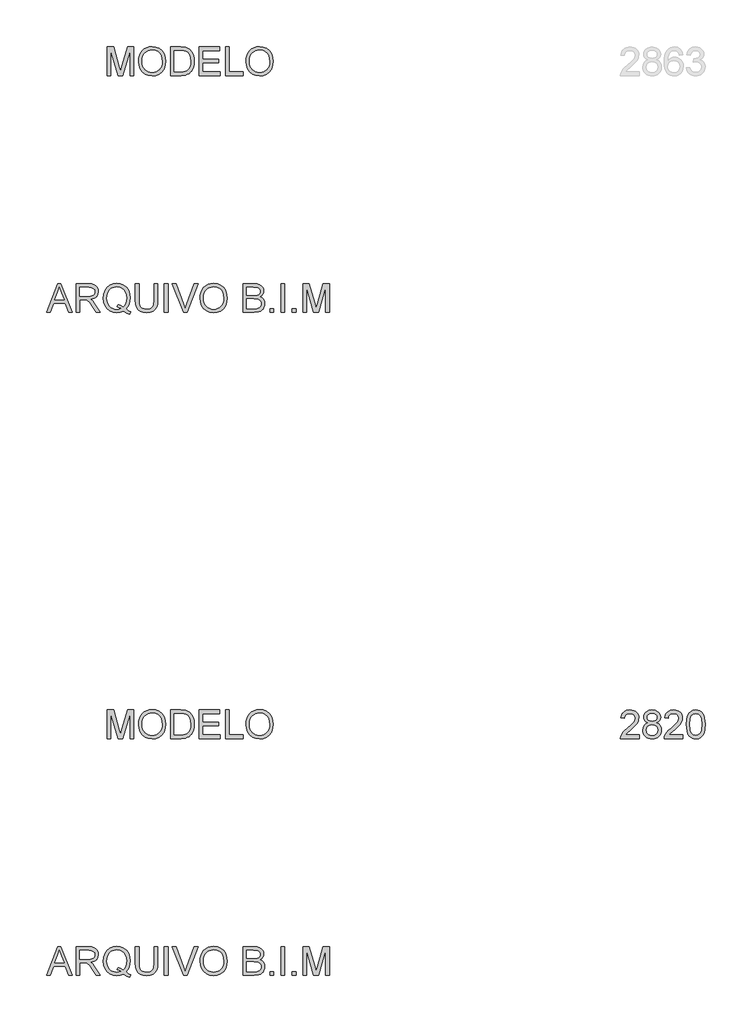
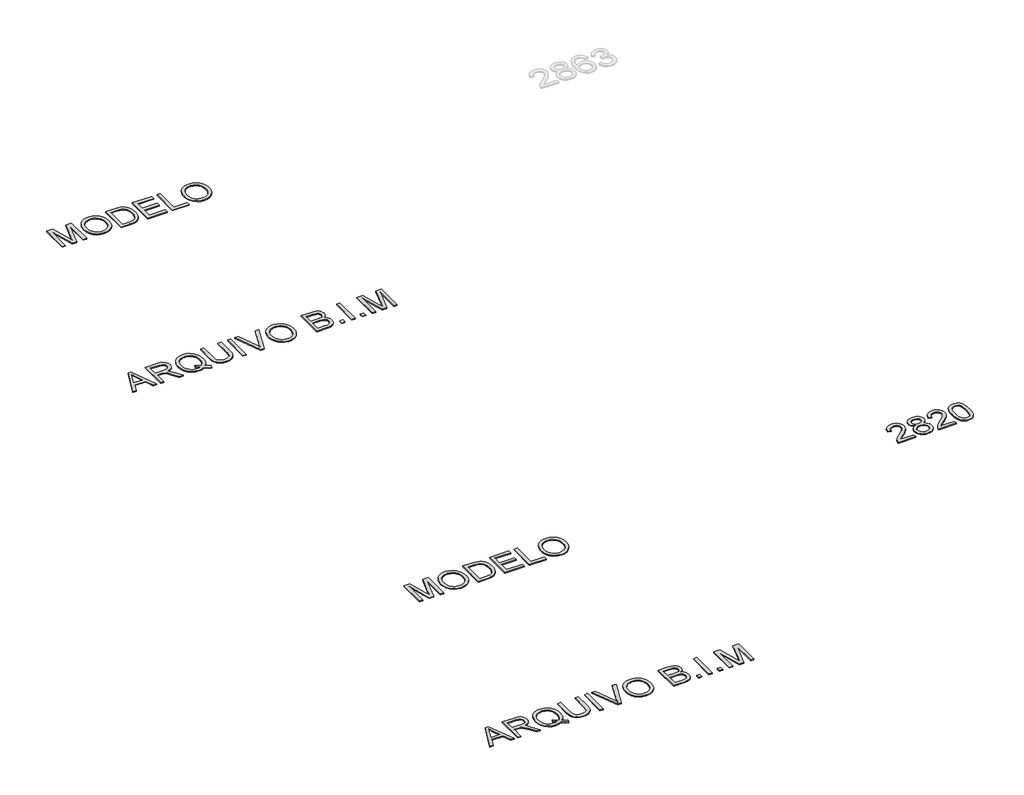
# One storey, part 1 of 4: 5 proxies.
"""IFC4 building model written with IfcOpenShell, lengths in millimetres."""

from ifc_helpers import new_model, si_unit, origin, origin_with_axes, place, context, project, spatial, polyline, outline, extrude, element, save

model = new_model("IFC4")

# Units and contexts
model_context = context("Model", 3, world=origin())
ifc_project = project(units=[si_unit("LENGTHUNIT", "METRE", prefix="MILLI")], contexts=[model_context])

# Site, building, storey
site = spatial("IfcSite", under=ifc_project)
building = spatial("IfcBuilding", under=site)
storey = spatial("IfcBuildingStorey", under=building, Name="Marelli - Linha UNIQUE - Planta Baixa", Elevation=0.0)

# Proxies
placement = place(None, origin())
element("IfcBuildingElementProxy", 1, Name="300mm Arial", ObjectType="300mm Arial", at=placement, inside=storey, context=model_context, shape_type="SweptSolid", body=[
    extrude(outline(polyline([(-8109.419598, -10780.5663201), (-7989.1221856, -10479.1973896), (-7957.0428756, -10479.1973896), (-7836.7454632, -10780.5663201), (-7876.550295, -10780.5663201), (-7911.0576262, -10686.3885293), (-8035.1810114, -10686.3885293), (-8069.6147661, -10780.5663201), (-8109.419598, -10780.5663201)]), holes=[polyline([(-8021.3486483, -10648.717413), (-7924.8164128, -10648.717413), (-7951.9661041, -10574.6259792), (-7973.0825306, -10516.8685059), (-7991.8445123, -10568.1512561), (-8021.3486483, -10648.717413)])]), origin_with_axes(), (0.0, 0.0, 1.0), 10.0),
    extrude(outline(polyline([(-7796.4991729, -10780.5663201), (-7796.4991729, -10479.1973896), (-7666.6368286, -10479.1973896), (-7631.7340243, -10481.2299376), (-7606.3409696, -10487.3275817), (-7587.7813229, -10498.5847708), (-7573.3787428, -10516.0959537), (-7564.1357077, -10537.8101885), (-7561.054696, -10561.6765329), (-7566.1590587, -10591.3646099), (-7581.4721467, -10615.9759154), (-7593.0719259, -10626.0052983), (-7607.4538126, -10634.0205273), (-7644.5639089, -10644.0085235), (-7623.1531768, -10660.1217548), (-7592.6189712, -10698.8965171), (-7542.3662906, -10780.5663201), (-7586.144248, -10780.5663201), (-7625.3604687, -10718.0999573), (-7653.6873824, -10676.750021), (-7673.5897983, -10657.2154871), (-7691.5056515, -10650.0417882), (-7713.357842, -10648.717413), (-7758.8280566, -10648.717413), (-7758.8280566, -10780.5663201), (-7796.4991729, -10780.5663201)]), holes=[polyline([(-7758.8280566, -10611.0462967), (-7674.5095033, -10611.0462967), (-7650.293671, -10609.7127245), (-7631.5040981, -10605.7120078), (-7617.3590353, -10598.7774322), (-7607.0767336, -10588.6422832), (-7600.8135426, -10576.3826157), (-7598.7258123, -10563.0744845), (-7602.7081349, -10544.6987789), (-7614.6551027, -10529.8915286), (-7635.2105092, -10520.1242616), (-7665.0181478, -10516.8685059), (-7758.8280566, -10516.8685059), (-7758.8280566, -10611.0462967)])]), origin_with_axes(), (0.0, 0.0, 1.0), 10.0),
    extrude(outline(polyline([(-7268.7356626, -10744.4403081), (-7244.4002686, -10763.036743), (-7222.0146492, -10775.8574305), (-7232.1681923, -10803.4485802), (-7263.2358268, -10789.0460001), (-7294.1930967, -10768.205485), (-7329.0499157, -10781.0077785), (-7367.4016137, -10785.2752096), (-7405.9372527, -10780.3547879), (-7440.7572836, -10765.5935229), (-7469.9211287, -10741.9203165), (-7491.4882107, -10710.2640708), (-7504.814736, -10672.3630282), (-7509.2569111, -10629.9554312), (-7504.823933, -10587.511046), (-7491.5249989, -10549.0581805), (-7470.0406904, -10516.9512794), (-7441.0515892, -10493.5447874), (-7406.360317, -10479.2525719), (-7367.7694957, -10474.4885001), (-7328.8751718, -10479.3629365), (-7294.0091557, -10493.9862458), (-7265.0660397, -10517.3835407), (-7243.9404161, -10548.5799339), (-7231.0277581, -10585.9199564), (-7226.7235388, -10627.7481393), (-7229.3355009, -10662.5313819), (-7237.1713874, -10693.5990164), (-7250.2863806, -10720.9142546), (-7268.7356626, -10744.4403081)]), holes=[polyline([(-7357.0273415, -10694.3347804), (-7325.3527017, -10706.3093393), (-7299.784903, -10722.9559996), (-7284.3016695, -10705.4816049), (-7273.2422171, -10684.1076609), (-7266.6065456, -10658.8341679), (-7264.3946551, -10629.6611256), (-7267.521652, -10596.5057608), (-7276.9026429, -10567.8201623), (-7292.3077015, -10544.3308969), (-7313.5069014, -10526.7645316), (-7339.065503, -10515.8108452), (-7367.5487665, -10512.1596164), (-7389.033075, -10514.0059242), (-7408.6043972, -10519.5448474), (-7426.2627329, -10528.7763863), (-7442.0080823, -10541.7005406), (-7454.9483315, -10558.2897193), (-7464.1913666, -10578.5163313), (-7469.7371877, -10602.3803764), (-7471.5857948, -10629.8818548), (-7469.7578811, -10656.6659634), (-7464.2741401, -10680.1437324), (-7455.1345718, -10700.3151621), (-7442.3391761, -10717.1802523), (-7426.7018921, -10730.4906827), (-7409.0366585, -10739.9981331), (-7389.3434755, -10745.7026032), (-7367.6223429, -10747.6040933), (-7346.7082515, -10745.6727128), (-7327.081747, -10739.8785714), (-7346.3771577, -10729.853787), (-7366.7394261, -10723.1767288), (-7357.0273415, -10694.3347804)])]), origin_with_axes(), (0.0, 0.0, 1.0), 10.0),
    extrude(outline(polyline([(-6972.4435037, -10479.1973896), (-6934.7723874, -10479.1973896), (-6934.7723874, -10653.0584205), (-6937.3291673, -10693.7737604), (-6944.9995069, -10725.1265034), (-6959.3285106, -10749.3147446), (-6981.8612828, -10768.5365788), (-7012.6530058, -10781.0905519), (-7051.7588619, -10785.2752096), (-7090.0093923, -10781.6331779), (-7120.5895832, -10770.7070826), (-7143.5086315, -10752.8740029), (-7158.7757343, -10728.5110178), (-7167.3565818, -10695.8338995), (-7170.2168643, -10653.0584205), (-7170.2168643, -10479.1973896), (-7132.545748, -10479.1973896), (-7132.545748, -10651.7340454), (-7130.6879439, -10685.588386), (-7125.1145317, -10709.1604248), (-7115.0161709, -10725.4851883), (-7099.5835212, -10737.597703), (-7079.4603761, -10745.1024957), (-7055.290529, -10747.6040933), (-7016.9756192, -10742.6560805), (-7002.6328199, -10736.4710644), (-6991.499791, -10727.812042), (-6983.1626653, -10715.6351479), (-6977.2075755, -10698.8965171), (-6972.4435037, -10651.7340454), (-6972.4435037, -10479.1973896)])), origin_with_axes(), (0.0, 0.0, 1.0), 10.0),
    extrude(outline(polyline([(-6864.1390443, -10780.5663201), (-6864.1390443, -10479.1973896), (-6826.467928, -10479.1973896), (-6826.467928, -10780.5663201), (-6864.1390443, -10780.5663201)])), origin_with_axes(), (0.0, 0.0, 1.0), 10.0),
    extrude(outline(polyline([(-6662.0982526, -10780.5663201), (-6782.027783, -10479.1973896), (-6741.7079163, -10479.1973896), (-6661.436065, -10696.3213432), (-6645.1756808, -10745.2496485), (-6629.1360258, -10696.3213432), (-6548.6434453, -10479.1973896), (-6508.3235786, -10479.1973896), (-6623.1763375, -10780.5663201), (-6662.0982526, -10780.5663201)])), origin_with_axes(), (0.0, 0.0, 1.0), 10.0),
    extrude(outline(polyline([(-6487.4278813, -10633.8549804), (-6484.9170866, -10598.5061192), (-6477.3847028, -10567.213157), (-6464.8307297, -10539.9760937), (-6447.2551674, -10516.7949295), (-6425.711078, -10498.2858666), (-6401.2515239, -10485.0651074), (-6373.8765049, -10477.1326519), (-6343.5860211, -10474.4885001), (-6304.0571008, -10479.454907), (-6268.6116705, -10494.3541278), (-6239.1811109, -10518.1376988), (-6217.6968024, -10549.7571563), (-6204.5634152, -10587.68579), (-6200.1856194, -10630.3968896), (-6204.7933414, -10673.6782064), (-6218.6165074, -10712.140269), (-6240.8917622, -10743.8149087), (-6270.8557507, -10766.733957), (-6305.9976783, -10780.6398965), (-6343.8067503, -10785.2752096), (-6383.942676, -10780.1524528), (-6419.5904413, -10764.7841825), (-6448.9474246, -10740.5591531), (-6470.2110039, -10708.8661192), (-6483.1236619, -10672.3998164), (-6487.4278813, -10633.8549804)]), holes=[polyline([(-6449.7567649, -10634.2228624), (-6447.873669, -10659.1974513), (-6442.2243811, -10681.3669401), (-6432.8089013, -10700.7313286), (-6419.6272295, -10717.2906169), (-6403.6036694, -10730.5527628), (-6385.6625243, -10740.0257242), (-6365.8037944, -10745.709501), (-6344.0274795, -10747.6040933), (-6321.8786842, -10745.6911069), (-6301.7854294, -10739.9521478), (-6283.7477154, -10730.3872159), (-6267.7655419, -10716.9963113), (-6254.6804392, -10700.0875351), (-6245.3339373, -10679.9689885), (-6239.7260361, -10656.6406715), (-6237.8567357, -10630.102584), (-6241.0573091, -10596.7540812), (-6250.6590292, -10567.9305269), (-6266.4135756, -10544.358488), (-6288.0726281, -10526.7645316), (-6314.2014468, -10515.8108452), (-6343.3652919, -10512.1596164), (-6364.3851494, -10513.9185522), (-6383.8874937, -10519.1953595), (-6401.8723248, -10527.9900385), (-6418.3396426, -10540.302589), (-6432.0846336, -10556.7262208), (-6441.9024844, -10577.8541437), (-6447.7931948, -10603.6863575), (-6449.7567649, -10634.2228624)])]), origin_with_axes(), (0.0, 0.0, 1.0), 10.0),
    extrude(outline(polyline([(-6030.665596, -10780.5663201), (-6030.665596, -10479.1973896), (-5915.6656844, -10479.1973896), (-5884.0370298, -10481.4138786), (-5859.3429509, -10488.0633457), (-5840.4154222, -10499.3113377), (-5826.0864185, -10515.3234015), (-5817.0641126, -10534.1589597), (-5814.0566773, -10553.8774346), (-5816.585866, -10572.0232141), (-5824.1734321, -10589.0837416), (-5836.874558, -10604.0105535), (-5854.7444259, -10615.7551862), (-5833.3980732, -10626.9020107), (-5817.6251326, -10643.8613707), (-5807.8854568, -10665.5112261), (-5804.6388982, -10690.7295368), (-5806.8553872, -10711.7447958), (-5813.5048543, -10731.2333445), (-5823.4284711, -10747.8064284), (-5835.4674094, -10760.0752929), (-5850.2102804, -10768.9596431), (-5868.2456952, -10775.3791839), (-5916.5486011, -10780.5663201), (-6030.665596, -10780.5663201)]), holes=[polyline([(-5992.9944797, -10601.6285176), (-5924.2005466, -10601.6285176), (-5884.0278328, -10598.3911561), (-5869.9655435, -10592.8085468), (-5859.8579857, -10584.4484284), (-5853.7603416, -10573.4395597), (-5851.7277936, -10559.9106994), (-5853.6223859, -10546.7773121), (-5859.3061627, -10535.3361821), (-5868.5216067, -10526.4058467), (-5881.0112004, -10520.8048433), (-5929.424471, -10516.8685059), (-5992.9944797, -10516.8685059), (-5992.9944797, -10601.6285176)]), polyline([(-5992.9944797, -10742.8952038), (-5915.7392607, -10742.8952038), (-5887.7802291, -10741.4236758), (-5864.1254168, -10733.2199073), (-5848.4536438, -10716.4812765), (-5843.8459218, -10704.6538704), (-5842.3100145, -10691.0974188), (-5844.1126363, -10675.3520694), (-5849.5205016, -10661.814012), (-5858.9658718, -10651.2282076), (-5872.8810083, -10644.3396173), (-5892.5902862, -10640.5596298), (-5919.4180807, -10639.2996339), (-5992.9944797, -10639.2996339), (-5992.9944797, -10742.8952038)])]), origin_with_axes(), (0.0, 0.0, 1.0), 10.0),
    extrude(outline(polyline([(-5748.1322237, -10780.5663201), (-5748.1322237, -10742.8952038), (-5710.4611074, -10742.8952038), (-5710.4611074, -10780.5663201), (-5748.1322237, -10780.5663201)])), origin_with_axes(), (0.0, 0.0, 1.0), 10.0),
    extrude(outline(polyline([(-5630.4099853, -10780.5663201), (-5630.4099853, -10479.1973896), (-5592.738869, -10479.1973896), (-5592.738869, -10780.5663201), (-5630.4099853, -10780.5663201)])), origin_with_axes(), (0.0, 0.0, 1.0), 10.0),
    extrude(outline(polyline([(-5512.6877468, -10780.5663201), (-5512.6877468, -10742.8952038), (-5475.0166305, -10742.8952038), (-5475.0166305, -10780.5663201), (-5512.6877468, -10780.5663201)])), origin_with_axes(), (0.0, 0.0, 1.0), 10.0),
    extrude(outline(polyline([(-5399.6743979, -10780.5663201), (-5399.6743979, -10479.1973896), (-5334.8535904, -10479.1973896), (-5273.196568, -10691.6124536), (-5260.7621565, -10735.9790223), (-5247.2976755, -10687.9336337), (-5186.6707227, -10479.1973896), (-5121.8499152, -10479.1973896), (-5121.8499152, -10780.5663201), (-5159.5210315, -10780.5663201), (-5159.5210315, -10516.8685059), (-5235.2311461, -10780.5663201), (-5286.293167, -10780.5663201), (-5362.0032816, -10516.8685059), (-5362.0032816, -10780.5663201), (-5399.6743979, -10780.5663201)])), origin_with_axes(), (0.0, 0.0, 1.0), 10.0),
])
element("IfcBuildingElementProxy", 2, Name="300mm Arial", ObjectType="300mm Arial", at=placement, inside=storey, context=model_context, shape_type="SweptSolid", body=[
    extrude(outline(polyline([(-7466.8769052, -8280.5663201), (-7466.8769052, -7979.1973896), (-7402.0560977, -7979.1973896), (-7340.3990753, -8191.6124536), (-7327.9646638, -8235.9790223), (-7314.5001828, -8187.9336337), (-7253.87323, -7979.1973896), (-7189.0524225, -7979.1973896), (-7189.0524225, -8280.5663201), (-7226.7235388, -8280.5663201), (-7226.7235388, -8016.8685059), (-7302.4336534, -8280.5663201), (-7353.4956743, -8280.5663201), (-7429.2057889, -8016.8685059), (-7429.2057889, -8280.5663201), (-7466.8769052, -8280.5663201)])), origin_with_axes(), (0.0, 0.0, 1.0), 10.0),
    extrude(outline(polyline([(-7137.2546375, -8133.8549804), (-7134.7438429, -8098.5061192), (-7127.2114591, -8067.213157), (-7114.657486, -8039.9760937), (-7097.0819237, -8016.7949295), (-7075.5378343, -7998.2858666), (-7051.0782802, -7985.0651074), (-7023.7032612, -7977.1326519), (-6993.4127774, -7974.4885001), (-6953.883857, -7979.454907), (-6918.4384268, -7994.3541278), (-6889.0078672, -8018.1376988), (-6867.5235587, -8049.7571563), (-6854.3901714, -8087.68579), (-6850.0123757, -8130.3968896), (-6854.6200977, -8173.6782064), (-6868.4432637, -8212.140269), (-6890.7185185, -8243.8149087), (-6920.682507, -8266.733957), (-6955.8244346, -8280.6398965), (-6993.6335066, -8285.2752096), (-7033.7694323, -8280.1524528), (-7069.4171976, -8264.7841825), (-7098.7741808, -8240.5591531), (-7120.0377602, -8208.8661192), (-7132.9504182, -8172.3998164), (-7137.2546375, -8133.8549804)]), holes=[polyline([(-7099.5835212, -8134.2228624), (-7097.7004253, -8159.1974513), (-7092.0511374, -8181.3669401), (-7082.6356576, -8200.7313286), (-7069.4539858, -8217.2906169), (-7053.4304257, -8230.5527628), (-7035.4892806, -8240.0257242), (-7015.6305507, -8245.709501), (-6993.8542358, -8247.6040933), (-6971.7054404, -8245.6911069), (-6951.6121857, -8239.9521478), (-6933.5744716, -8230.3872159), (-6917.5922982, -8216.9963113), (-6904.5071955, -8200.0875351), (-6895.1606936, -8179.9689885), (-6889.5527924, -8156.6406715), (-6887.683492, -8130.102584), (-6890.8840654, -8096.7540812), (-6900.4857854, -8067.9305269), (-6916.2403319, -8044.358488), (-6937.8993843, -8026.7645316), (-6964.0282031, -8015.8108452), (-6993.1920482, -8012.1596164), (-7014.2119057, -8013.9185522), (-7033.71425, -8019.1953595), (-7051.699081, -8027.9900385), (-7068.1663988, -8040.302589), (-7081.9113899, -8056.7262208), (-7091.7292406, -8077.8541437), (-7097.6199511, -8103.6863575), (-7099.5835212, -8134.2228624)])]), origin_with_axes(), (0.0, 0.0, 1.0), 10.0),
    extrude(outline(polyline([(-6798.2145908, -8280.5663201), (-6798.2145908, -7979.1973896), (-6694.2511389, -7979.1973896), (-6640.4667912, -7983.5383972), (-6616.444097, -7991.9077126), (-6596.173799, -8005.0962821), (-6575.333284, -8028.0521186), (-6560.4892455, -8056.5997614), (-6551.6048953, -8090.1873876), (-6548.6434453, -8128.2631741), (-6550.6484021, -8160.6091985), (-6556.6632727, -8189.0740679), (-6565.8235344, -8213.3082943), (-6577.2646645, -8232.9623899), (-6590.4348399, -8248.477813), (-6604.7822377, -8260.2960221), (-6621.254154, -8269.0608107), (-6640.797885, -8275.4159721), (-6689.2479438, -8280.5663201), (-6798.2145908, -8280.5663201)]), holes=[polyline([(-6760.5434745, -8242.8952038), (-6693.8832569, -8242.8952038), (-6666.3105014, -8241.5340404), (-6645.39641, -8237.4505502), (-6629.6142724, -8230.8838566), (-6617.4373783, -8222.0730828), (-6604.3499764, -8205.7667134), (-6594.5183301, -8184.6594839), (-6588.3655037, -8158.6594239), (-6586.3145616, -8127.6745629), (-6590.3336724, -8086.6189322), (-6602.3910047, -8056.3054558), (-6620.2056904, -8035.4833349), (-6641.4968608, -8022.9017706), (-6663.1651104, -8018.3768221), (-6694.9133265, -8016.8685059), (-6760.5434745, -8016.8685059), (-6760.5434745, -8242.8952038)])]), origin_with_axes(), (0.0, 0.0, 1.0), 10.0),
    extrude(outline(polyline([(-6496.8456603, -8280.5663201), (-6496.8456603, -7979.1973896), (-6280.2367416, -7979.1973896), (-6280.2367416, -8016.8685059), (-6459.174544, -8016.8685059), (-6459.174544, -8106.3374072), (-6289.6545206, -8106.3374072), (-6289.6545206, -8144.0085235), (-6459.174544, -8144.0085235), (-6459.174544, -8242.8952038), (-6275.527852, -8242.8952038), (-6275.527852, -8280.5663201), (-6496.8456603, -8280.5663201)])), origin_with_axes(), (0.0, 0.0, 1.0), 10.0),
    extrude(outline(polyline([(-6219.0211776, -8280.5663201), (-6219.0211776, -7979.1973896), (-6181.3500613, -7979.1973896), (-6181.3500613, -8242.8952038), (-6030.665596, -8242.8952038), (-6030.665596, -8280.5663201), (-6219.0211776, -8280.5663201)])), origin_with_axes(), (0.0, 0.0, 1.0), 10.0),
    extrude(outline(polyline([(-6002.4122588, -8133.8549804), (-5999.9014642, -8098.5061192), (-5992.3690803, -8067.213157), (-5979.8151073, -8039.9760937), (-5962.2395449, -8016.7949295), (-5940.6954556, -7998.2858666), (-5916.2359014, -7985.0651074), (-5888.8608825, -7977.1326519), (-5858.5703987, -7974.4885001), (-5819.0414783, -7979.454907), (-5783.5960481, -7994.3541278), (-5754.1654885, -8018.1376988), (-5732.6811799, -8049.7571563), (-5719.5477927, -8087.68579), (-5715.169997, -8130.3968896), (-5719.777719, -8173.6782064), (-5733.6008849, -8212.140269), (-5755.8761397, -8243.8149087), (-5785.8401283, -8266.733957), (-5820.9820558, -8280.6398965), (-5858.7911279, -8285.2752096), (-5898.9270536, -8280.1524528), (-5934.5748189, -8264.7841825), (-5963.9318021, -8240.5591531), (-5985.1953814, -8208.8661192), (-5998.1080395, -8172.3998164), (-6002.4122588, -8133.8549804)]), holes=[polyline([(-5964.7411425, -8134.2228624), (-5962.8580465, -8159.1974513), (-5957.2087587, -8181.3669401), (-5947.7932788, -8200.7313286), (-5934.6116071, -8217.2906169), (-5918.5880469, -8230.5527628), (-5900.6469019, -8240.0257242), (-5880.7881719, -8245.709501), (-5859.0118571, -8247.6040933), (-5836.8630617, -8245.6911069), (-5816.769807, -8239.9521478), (-5798.7320929, -8230.3872159), (-5782.7499195, -8216.9963113), (-5769.6648168, -8200.0875351), (-5760.3183148, -8179.9689885), (-5754.7104137, -8156.6406715), (-5752.8411133, -8130.102584), (-5756.0416866, -8096.7540812), (-5765.6434067, -8067.9305269), (-5781.3979532, -8044.358488), (-5803.0570056, -8026.7645316), (-5829.1858243, -8015.8108452), (-5858.3496695, -8012.1596164), (-5879.369527, -8013.9185522), (-5898.8718713, -8019.1953595), (-5916.8567023, -8027.9900385), (-5933.3240201, -8040.302589), (-5947.0690112, -8056.7262208), (-5956.8868619, -8077.8541437), (-5962.7775724, -8103.6863575), (-5964.7411425, -8134.2228624)])]), origin_with_axes(), (0.0, 0.0, 1.0), 10.0),
])
element("IfcBuildingElementProxy", 3, Name="300mm Arial", ObjectType="300mm Arial", at=placement, inside=storey, context=model_context, shape_type="SweptSolid", body=[
    extrude(outline(polyline([(-8109.419598, -17780.5663201), (-7989.1221856, -17479.1973896), (-7957.0428756, -17479.1973896), (-7836.7454632, -17780.5663201), (-7876.550295, -17780.5663201), (-7911.0576262, -17686.3885293), (-8035.1810114, -17686.3885293), (-8069.6147661, -17780.5663201), (-8109.419598, -17780.5663201)]), holes=[polyline([(-8021.3486483, -17648.717413), (-7924.8164128, -17648.717413), (-7951.9661041, -17574.6259792), (-7973.0825306, -17516.8685059), (-7991.8445123, -17568.1512561), (-8021.3486483, -17648.717413)])]), origin_with_axes(), (0.0, 0.0, 1.0), 10.0),
    extrude(outline(polyline([(-7796.4991729, -17780.5663201), (-7796.4991729, -17479.1973896), (-7666.6368286, -17479.1973896), (-7631.7340243, -17481.2299376), (-7606.3409696, -17487.3275817), (-7587.7813229, -17498.5847708), (-7573.3787428, -17516.0959537), (-7564.1357077, -17537.8101885), (-7561.054696, -17561.6765329), (-7566.1590587, -17591.3646099), (-7581.4721467, -17615.9759154), (-7593.0719259, -17626.0052983), (-7607.4538126, -17634.0205273), (-7644.5639089, -17644.0085235), (-7623.1531768, -17660.1217548), (-7592.6189712, -17698.8965171), (-7542.3662906, -17780.5663201), (-7586.144248, -17780.5663201), (-7625.3604687, -17718.0999573), (-7653.6873824, -17676.750021), (-7673.5897983, -17657.2154871), (-7691.5056515, -17650.0417882), (-7713.357842, -17648.717413), (-7758.8280566, -17648.717413), (-7758.8280566, -17780.5663201), (-7796.4991729, -17780.5663201)]), holes=[polyline([(-7758.8280566, -17611.0462967), (-7674.5095033, -17611.0462967), (-7650.293671, -17609.7127245), (-7631.5040981, -17605.7120078), (-7617.3590353, -17598.7774322), (-7607.0767336, -17588.6422832), (-7600.8135426, -17576.3826157), (-7598.7258123, -17563.0744845), (-7602.7081349, -17544.6987789), (-7614.6551027, -17529.8915286), (-7635.2105092, -17520.1242616), (-7665.0181478, -17516.8685059), (-7758.8280566, -17516.8685059), (-7758.8280566, -17611.0462967)])]), origin_with_axes(), (0.0, 0.0, 1.0), 10.0),
    extrude(outline(polyline([(-7268.7356626, -17744.4403081), (-7244.4002686, -17763.036743), (-7222.0146492, -17775.8574305), (-7232.1681923, -17803.4485802), (-7263.2358268, -17789.0460001), (-7294.1930967, -17768.205485), (-7329.0499157, -17781.0077785), (-7367.4016137, -17785.2752096), (-7405.9372527, -17780.3547879), (-7440.7572836, -17765.5935229), (-7469.9211287, -17741.9203165), (-7491.4882107, -17710.2640708), (-7504.814736, -17672.3630282), (-7509.2569111, -17629.9554312), (-7504.823933, -17587.511046), (-7491.5249989, -17549.0581805), (-7470.0406904, -17516.9512794), (-7441.0515892, -17493.5447874), (-7406.360317, -17479.2525719), (-7367.7694957, -17474.4885001), (-7328.8751718, -17479.3629365), (-7294.0091557, -17493.9862458), (-7265.0660397, -17517.3835407), (-7243.9404161, -17548.5799339), (-7231.0277581, -17585.9199564), (-7226.7235388, -17627.7481393), (-7229.3355009, -17662.5313819), (-7237.1713874, -17693.5990164), (-7250.2863806, -17720.9142546), (-7268.7356626, -17744.4403081)]), holes=[polyline([(-7357.0273415, -17694.3347804), (-7325.3527017, -17706.3093393), (-7299.784903, -17722.9559996), (-7284.3016695, -17705.4816049), (-7273.2422171, -17684.1076609), (-7266.6065456, -17658.8341679), (-7264.3946551, -17629.6611256), (-7267.521652, -17596.5057608), (-7276.9026429, -17567.8201623), (-7292.3077015, -17544.3308969), (-7313.5069014, -17526.7645316), (-7339.065503, -17515.8108452), (-7367.5487665, -17512.1596164), (-7389.033075, -17514.0059242), (-7408.6043972, -17519.5448474), (-7426.2627329, -17528.7763863), (-7442.0080823, -17541.7005406), (-7454.9483315, -17558.2897193), (-7464.1913666, -17578.5163313), (-7469.7371877, -17602.3803764), (-7471.5857948, -17629.8818548), (-7469.7578811, -17656.6659634), (-7464.2741401, -17680.1437324), (-7455.1345718, -17700.3151621), (-7442.3391761, -17717.1802523), (-7426.7018921, -17730.4906827), (-7409.0366585, -17739.9981331), (-7389.3434755, -17745.7026032), (-7367.6223429, -17747.6040933), (-7346.7082515, -17745.6727128), (-7327.081747, -17739.8785714), (-7346.3771577, -17729.853787), (-7366.7394261, -17723.1767288), (-7357.0273415, -17694.3347804)])]), origin_with_axes(), (0.0, 0.0, 1.0), 10.0),
    extrude(outline(polyline([(-6972.4435037, -17479.1973896), (-6934.7723874, -17479.1973896), (-6934.7723874, -17653.0584205), (-6937.3291673, -17693.7737604), (-6944.9995069, -17725.1265034), (-6959.3285106, -17749.3147446), (-6981.8612828, -17768.5365788), (-7012.6530058, -17781.0905519), (-7051.7588619, -17785.2752096), (-7090.0093923, -17781.6331779), (-7120.5895832, -17770.7070826), (-7143.5086315, -17752.8740029), (-7158.7757343, -17728.5110178), (-7167.3565818, -17695.8338995), (-7170.2168643, -17653.0584205), (-7170.2168643, -17479.1973896), (-7132.545748, -17479.1973896), (-7132.545748, -17651.7340454), (-7130.6879439, -17685.588386), (-7125.1145317, -17709.1604248), (-7115.0161709, -17725.4851883), (-7099.5835212, -17737.597703), (-7079.4603761, -17745.1024957), (-7055.290529, -17747.6040933), (-7016.9756192, -17742.6560805), (-7002.6328199, -17736.4710644), (-6991.499791, -17727.812042), (-6983.1626653, -17715.6351479), (-6977.2075755, -17698.8965171), (-6972.4435037, -17651.7340454), (-6972.4435037, -17479.1973896)])), origin_with_axes(), (0.0, 0.0, 1.0), 10.0),
    extrude(outline(polyline([(-6864.1390443, -17780.5663201), (-6864.1390443, -17479.1973896), (-6826.467928, -17479.1973896), (-6826.467928, -17780.5663201), (-6864.1390443, -17780.5663201)])), origin_with_axes(), (0.0, 0.0, 1.0), 10.0),
    extrude(outline(polyline([(-6662.0982526, -17780.5663201), (-6782.027783, -17479.1973896), (-6741.7079163, -17479.1973896), (-6661.436065, -17696.3213432), (-6645.1756808, -17745.2496485), (-6629.1360258, -17696.3213432), (-6548.6434453, -17479.1973896), (-6508.3235786, -17479.1973896), (-6623.1763375, -17780.5663201), (-6662.0982526, -17780.5663201)])), origin_with_axes(), (0.0, 0.0, 1.0), 10.0),
    extrude(outline(polyline([(-6487.4278813, -17633.8549804), (-6484.9170866, -17598.5061192), (-6477.3847028, -17567.213157), (-6464.8307297, -17539.9760937), (-6447.2551674, -17516.7949295), (-6425.711078, -17498.2858666), (-6401.2515239, -17485.0651074), (-6373.8765049, -17477.1326519), (-6343.5860211, -17474.4885001), (-6304.0571008, -17479.454907), (-6268.6116705, -17494.3541278), (-6239.1811109, -17518.1376988), (-6217.6968024, -17549.7571563), (-6204.5634152, -17587.68579), (-6200.1856194, -17630.3968896), (-6204.7933414, -17673.6782064), (-6218.6165074, -17712.140269), (-6240.8917622, -17743.8149087), (-6270.8557507, -17766.733957), (-6305.9976783, -17780.6398965), (-6343.8067503, -17785.2752096), (-6383.942676, -17780.1524528), (-6419.5904413, -17764.7841825), (-6448.9474246, -17740.5591531), (-6470.2110039, -17708.8661192), (-6483.1236619, -17672.3998164), (-6487.4278813, -17633.8549804)]), holes=[polyline([(-6449.7567649, -17634.2228624), (-6447.873669, -17659.1974513), (-6442.2243811, -17681.3669401), (-6432.8089013, -17700.7313286), (-6419.6272295, -17717.2906169), (-6403.6036694, -17730.5527628), (-6385.6625243, -17740.0257242), (-6365.8037944, -17745.709501), (-6344.0274795, -17747.6040933), (-6321.8786842, -17745.6911069), (-6301.7854294, -17739.9521478), (-6283.7477154, -17730.3872159), (-6267.7655419, -17716.9963113), (-6254.6804392, -17700.0875351), (-6245.3339373, -17679.9689885), (-6239.7260361, -17656.6406715), (-6237.8567357, -17630.102584), (-6241.0573091, -17596.7540812), (-6250.6590292, -17567.9305269), (-6266.4135756, -17544.358488), (-6288.0726281, -17526.7645316), (-6314.2014468, -17515.8108452), (-6343.3652919, -17512.1596164), (-6364.3851494, -17513.9185522), (-6383.8874937, -17519.1953595), (-6401.8723248, -17527.9900385), (-6418.3396426, -17540.302589), (-6432.0846336, -17556.7262208), (-6441.9024844, -17577.8541437), (-6447.7931948, -17603.6863575), (-6449.7567649, -17634.2228624)])]), origin_with_axes(), (0.0, 0.0, 1.0), 10.0),
    extrude(outline(polyline([(-6030.665596, -17780.5663201), (-6030.665596, -17479.1973896), (-5915.6656844, -17479.1973896), (-5884.0370298, -17481.4138786), (-5859.3429509, -17488.0633457), (-5840.4154222, -17499.3113377), (-5826.0864185, -17515.3234015), (-5817.0641126, -17534.1589597), (-5814.0566773, -17553.8774346), (-5816.585866, -17572.0232141), (-5824.1734321, -17589.0837416), (-5836.874558, -17604.0105535), (-5854.7444259, -17615.7551862), (-5833.3980732, -17626.9020107), (-5817.6251326, -17643.8613707), (-5807.8854568, -17665.5112261), (-5804.6388982, -17690.7295368), (-5806.8553872, -17711.7447958), (-5813.5048543, -17731.2333445), (-5823.4284711, -17747.8064284), (-5835.4674094, -17760.0752929), (-5850.2102804, -17768.9596431), (-5868.2456952, -17775.3791839), (-5916.5486011, -17780.5663201), (-6030.665596, -17780.5663201)]), holes=[polyline([(-5992.9944797, -17601.6285176), (-5924.2005466, -17601.6285176), (-5884.0278328, -17598.3911561), (-5869.9655435, -17592.8085468), (-5859.8579857, -17584.4484284), (-5853.7603416, -17573.4395597), (-5851.7277936, -17559.9106994), (-5853.6223859, -17546.7773121), (-5859.3061627, -17535.3361821), (-5868.5216067, -17526.4058467), (-5881.0112004, -17520.8048433), (-5929.424471, -17516.8685059), (-5992.9944797, -17516.8685059), (-5992.9944797, -17601.6285176)]), polyline([(-5992.9944797, -17742.8952038), (-5915.7392607, -17742.8952038), (-5887.7802291, -17741.4236758), (-5864.1254168, -17733.2199073), (-5848.4536438, -17716.4812765), (-5843.8459218, -17704.6538704), (-5842.3100145, -17691.0974188), (-5844.1126363, -17675.3520694), (-5849.5205016, -17661.814012), (-5858.9658718, -17651.2282076), (-5872.8810083, -17644.3396173), (-5892.5902862, -17640.5596298), (-5919.4180807, -17639.2996339), (-5992.9944797, -17639.2996339), (-5992.9944797, -17742.8952038)])]), origin_with_axes(), (0.0, 0.0, 1.0), 10.0),
    extrude(outline(polyline([(-5748.1322237, -17780.5663201), (-5748.1322237, -17742.8952038), (-5710.4611074, -17742.8952038), (-5710.4611074, -17780.5663201), (-5748.1322237, -17780.5663201)])), origin_with_axes(), (0.0, 0.0, 1.0), 10.0),
    extrude(outline(polyline([(-5630.4099853, -17780.5663201), (-5630.4099853, -17479.1973896), (-5592.738869, -17479.1973896), (-5592.738869, -17780.5663201), (-5630.4099853, -17780.5663201)])), origin_with_axes(), (0.0, 0.0, 1.0), 10.0),
    extrude(outline(polyline([(-5512.6877468, -17780.5663201), (-5512.6877468, -17742.8952038), (-5475.0166305, -17742.8952038), (-5475.0166305, -17780.5663201), (-5512.6877468, -17780.5663201)])), origin_with_axes(), (0.0, 0.0, 1.0), 10.0),
    extrude(outline(polyline([(-5399.6743979, -17780.5663201), (-5399.6743979, -17479.1973896), (-5334.8535904, -17479.1973896), (-5273.196568, -17691.6124536), (-5260.7621565, -17735.9790223), (-5247.2976755, -17687.9336337), (-5186.6707227, -17479.1973896), (-5121.8499152, -17479.1973896), (-5121.8499152, -17780.5663201), (-5159.5210315, -17780.5663201), (-5159.5210315, -17516.8685059), (-5235.2311461, -17780.5663201), (-5286.293167, -17780.5663201), (-5362.0032816, -17516.8685059), (-5362.0032816, -17780.5663201), (-5399.6743979, -17780.5663201)])), origin_with_axes(), (0.0, 0.0, 1.0), 10.0),
])
element("IfcBuildingElementProxy", 4, Name="300mm Arial", ObjectType="300mm Arial", at=placement, inside=storey, context=model_context, shape_type="SweptSolid", body=[
    extrude(outline(polyline([(-7466.8769052, -15280.5663201), (-7466.8769052, -14979.1973896), (-7402.0560977, -14979.1973896), (-7340.3990753, -15191.6124536), (-7327.9646638, -15235.9790223), (-7314.5001828, -15187.9336337), (-7253.87323, -14979.1973896), (-7189.0524225, -14979.1973896), (-7189.0524225, -15280.5663201), (-7226.7235388, -15280.5663201), (-7226.7235388, -15016.8685059), (-7302.4336534, -15280.5663201), (-7353.4956743, -15280.5663201), (-7429.2057889, -15016.8685059), (-7429.2057889, -15280.5663201), (-7466.8769052, -15280.5663201)])), origin_with_axes(), (0.0, 0.0, 1.0), 10.0),
    extrude(outline(polyline([(-7137.2546375, -15133.8549804), (-7134.7438429, -15098.5061192), (-7127.2114591, -15067.213157), (-7114.657486, -15039.9760937), (-7097.0819237, -15016.7949295), (-7075.5378343, -14998.2858666), (-7051.0782802, -14985.0651074), (-7023.7032612, -14977.1326519), (-6993.4127774, -14974.4885001), (-6953.883857, -14979.454907), (-6918.4384268, -14994.3541278), (-6889.0078672, -15018.1376988), (-6867.5235587, -15049.7571563), (-6854.3901714, -15087.68579), (-6850.0123757, -15130.3968896), (-6854.6200977, -15173.6782064), (-6868.4432637, -15212.140269), (-6890.7185185, -15243.8149087), (-6920.682507, -15266.733957), (-6955.8244346, -15280.6398965), (-6993.6335066, -15285.2752096), (-7033.7694323, -15280.1524528), (-7069.4171976, -15264.7841825), (-7098.7741808, -15240.5591531), (-7120.0377602, -15208.8661192), (-7132.9504182, -15172.3998164), (-7137.2546375, -15133.8549804)]), holes=[polyline([(-7099.5835212, -15134.2228624), (-7097.7004253, -15159.1974513), (-7092.0511374, -15181.3669401), (-7082.6356576, -15200.7313286), (-7069.4539858, -15217.2906169), (-7053.4304257, -15230.5527628), (-7035.4892806, -15240.0257242), (-7015.6305507, -15245.709501), (-6993.8542358, -15247.6040933), (-6971.7054404, -15245.6911069), (-6951.6121857, -15239.9521478), (-6933.5744716, -15230.3872159), (-6917.5922982, -15216.9963113), (-6904.5071955, -15200.0875351), (-6895.1606936, -15179.9689885), (-6889.5527924, -15156.6406715), (-6887.683492, -15130.102584), (-6890.8840654, -15096.7540812), (-6900.4857854, -15067.9305269), (-6916.2403319, -15044.358488), (-6937.8993843, -15026.7645316), (-6964.0282031, -15015.8108452), (-6993.1920482, -15012.1596164), (-7014.2119057, -15013.9185522), (-7033.71425, -15019.1953595), (-7051.699081, -15027.9900385), (-7068.1663988, -15040.302589), (-7081.9113899, -15056.7262208), (-7091.7292406, -15077.8541437), (-7097.6199511, -15103.6863575), (-7099.5835212, -15134.2228624)])]), origin_with_axes(), (0.0, 0.0, 1.0), 10.0),
    extrude(outline(polyline([(-6798.2145908, -15280.5663201), (-6798.2145908, -14979.1973896), (-6694.2511389, -14979.1973896), (-6640.4667912, -14983.5383972), (-6616.444097, -14991.9077126), (-6596.173799, -15005.0962821), (-6575.333284, -15028.0521186), (-6560.4892455, -15056.5997614), (-6551.6048953, -15090.1873876), (-6548.6434453, -15128.2631741), (-6550.6484021, -15160.6091985), (-6556.6632727, -15189.0740679), (-6565.8235344, -15213.3082943), (-6577.2646645, -15232.9623899), (-6590.4348399, -15248.477813), (-6604.7822377, -15260.2960221), (-6621.254154, -15269.0608107), (-6640.797885, -15275.4159721), (-6689.2479438, -15280.5663201), (-6798.2145908, -15280.5663201)]), holes=[polyline([(-6760.5434745, -15242.8952038), (-6693.8832569, -15242.8952038), (-6666.3105014, -15241.5340404), (-6645.39641, -15237.4505502), (-6629.6142724, -15230.8838566), (-6617.4373783, -15222.0730828), (-6604.3499764, -15205.7667134), (-6594.5183301, -15184.6594839), (-6588.3655037, -15158.6594239), (-6586.3145616, -15127.6745629), (-6590.3336724, -15086.6189322), (-6602.3910047, -15056.3054558), (-6620.2056904, -15035.4833349), (-6641.4968608, -15022.9017706), (-6663.1651104, -15018.3768221), (-6694.9133265, -15016.8685059), (-6760.5434745, -15016.8685059), (-6760.5434745, -15242.8952038)])]), origin_with_axes(), (0.0, 0.0, 1.0), 10.0),
    extrude(outline(polyline([(-6496.8456603, -15280.5663201), (-6496.8456603, -14979.1973896), (-6280.2367416, -14979.1973896), (-6280.2367416, -15016.8685059), (-6459.174544, -15016.8685059), (-6459.174544, -15106.3374072), (-6289.6545206, -15106.3374072), (-6289.6545206, -15144.0085235), (-6459.174544, -15144.0085235), (-6459.174544, -15242.8952038), (-6275.527852, -15242.8952038), (-6275.527852, -15280.5663201), (-6496.8456603, -15280.5663201)])), origin_with_axes(), (0.0, 0.0, 1.0), 10.0),
    extrude(outline(polyline([(-6219.0211776, -15280.5663201), (-6219.0211776, -14979.1973896), (-6181.3500613, -14979.1973896), (-6181.3500613, -15242.8952038), (-6030.665596, -15242.8952038), (-6030.665596, -15280.5663201), (-6219.0211776, -15280.5663201)])), origin_with_axes(), (0.0, 0.0, 1.0), 10.0),
    extrude(outline(polyline([(-6002.4122588, -15133.8549804), (-5999.9014642, -15098.5061192), (-5992.3690803, -15067.213157), (-5979.8151073, -15039.9760937), (-5962.2395449, -15016.7949295), (-5940.6954556, -14998.2858666), (-5916.2359014, -14985.0651074), (-5888.8608825, -14977.1326519), (-5858.5703987, -14974.4885001), (-5819.0414783, -14979.454907), (-5783.5960481, -14994.3541278), (-5754.1654885, -15018.1376988), (-5732.6811799, -15049.7571563), (-5719.5477927, -15087.68579), (-5715.169997, -15130.3968896), (-5719.777719, -15173.6782064), (-5733.6008849, -15212.140269), (-5755.8761397, -15243.8149087), (-5785.8401283, -15266.733957), (-5820.9820558, -15280.6398965), (-5858.7911279, -15285.2752096), (-5898.9270536, -15280.1524528), (-5934.5748189, -15264.7841825), (-5963.9318021, -15240.5591531), (-5985.1953814, -15208.8661192), (-5998.1080395, -15172.3998164), (-6002.4122588, -15133.8549804)]), holes=[polyline([(-5964.7411425, -15134.2228624), (-5962.8580465, -15159.1974513), (-5957.2087587, -15181.3669401), (-5947.7932788, -15200.7313286), (-5934.6116071, -15217.2906169), (-5918.5880469, -15230.5527628), (-5900.6469019, -15240.0257242), (-5880.7881719, -15245.709501), (-5859.0118571, -15247.6040933), (-5836.8630617, -15245.6911069), (-5816.769807, -15239.9521478), (-5798.7320929, -15230.3872159), (-5782.7499195, -15216.9963113), (-5769.6648168, -15200.0875351), (-5760.3183148, -15179.9689885), (-5754.7104137, -15156.6406715), (-5752.8411133, -15130.102584), (-5756.0416866, -15096.7540812), (-5765.6434067, -15067.9305269), (-5781.3979532, -15044.358488), (-5803.0570056, -15026.7645316), (-5829.1858243, -15015.8108452), (-5858.3496695, -15012.1596164), (-5879.369527, -15013.9185522), (-5898.8718713, -15019.1953595), (-5916.8567023, -15027.9900385), (-5933.3240201, -15040.302589), (-5947.0690112, -15056.7262208), (-5956.8868619, -15077.8541437), (-5962.7775724, -15103.6863575), (-5964.7411425, -15134.2228624)])]), origin_with_axes(), (0.0, 0.0, 1.0), 10.0),
])
element("IfcBuildingElementProxy", 5, Name="300mm Arial", ObjectType="300mm Arial", at=placement, inside=storey, context=model_context, shape_type="SweptSolid", body=[
    extrude(outline(polyline([(-1847.6579309, -15242.8952038), (-1847.6579309, -15280.5663201), (-2045.4312915, -15280.5663201), (-2041.3845896, -15254.5938512), (-2032.0955692, -15234.2959621), (-2018.5023295, -15214.6050783), (-1998.8390368, -15193.9944896), (-1971.3398577, -15170.9374855), (-1930.6888972, -15134.8298677), (-1906.298321, -15108.1768171), (-1894.1030328, -15086.5453558), (-1890.0379368, -15065.5025057), (-1893.8731066, -15046.6393564), (-1905.378616, -15030.9583863), (-1923.0645429, -15020.390976), (-1945.4409652, -15016.8685059), (-1968.9394277, -15020.3082026), (-1987.1955717, -15030.6272925), (-1998.9769926, -15047.0164354), (-2003.0512857, -15068.6662908), (-2040.722402, -15063.9574013), (-2031.5897315, -15027.5186897), (-2023.0433729, -15012.9827524), (-2011.8436654, -15000.9024273), (-1998.2481264, -14991.4064733), (-1982.5142733, -14984.623649), (-1944.6316249, -14979.1973896), (-1924.4418011, -14980.7057058), (-1906.4730649, -14985.2306543), (-1890.7254163, -14992.7722352), (-1877.1988551, -15003.3304485), (-1866.33484, -15016.1235449), (-1858.5748291, -15030.3697751), (-1853.9188226, -15046.0691393), (-1852.3668205, -15063.2216373), (-1854.0406835, -15081.238658), (-1859.0622728, -15098.942979), (-1867.9742141, -15116.9508027), (-1881.3191335, -15135.8783314), (-1902.5919099, -15158.4754829), (-1935.2874222, -15187.4921753), (-1978.6239212, -15223.7285518), (-1995.6200694, -15242.8952038), (-1847.6579309, -15242.8952038)])), origin_with_axes(), (0.0, 0.0, 1.0), 10.0),
    extrude(outline(polyline([(-1755.0988209, -15114.5779638), (-1775.2679513, -15104.64515), (-1789.4222111, -15091.180669), (-1797.7823294, -15074.4604323), (-1800.5690355, -15054.7603514), (-1799.0515223, -15039.3966796), (-1794.4989826, -15025.3113977), (-1786.9114165, -15012.5045058), (-1776.2888239, -15000.9760037), (-1763.1416411, -14991.4478601), (-1747.9803043, -14984.6420431), (-1711.6151691, -14979.1973896), (-1675.0293047, -14984.7708018), (-1659.7024211, -14991.7375671), (-1646.3529032, -15001.4910385), (-1635.5371725, -15013.2448683), (-1627.8116506, -15026.2127086), (-1623.1763375, -15040.3945595), (-1621.6312331, -15055.790421), (-1624.381151, -15074.8559054), (-1632.6309048, -15091.2910335), (-1646.4724648, -15104.6727411), (-1665.9978017, -15114.5779638), (-1642.812039, -15126.5249316), (-1625.9354524, -15144.1188881), (-1615.6439536, -15166.5137045), (-1612.213454, -15192.8632524), (-1613.9149082, -15211.6528253), (-1619.0192709, -15228.8788997), (-1627.5265421, -15244.5414757), (-1639.4367217, -15258.6405532), (-1654.1244103, -15270.2932154), (-1670.9642086, -15278.6165455), (-1689.9561166, -15283.6105436), (-1711.1001343, -15285.2752096), (-1732.244152, -15283.6036458), (-1751.23606, -15278.5889543), (-1768.0758583, -15270.2311353), (-1782.763547, -15258.5301886), (-1794.6737266, -15244.3322428), (-1803.1809977, -15228.4834266), (-1808.2853604, -15210.9837399), (-1809.9868146, -15191.8331828), (-1806.4183593, -15164.4627624), (-1795.7129932, -15141.9483843), (-1778.4225394, -15125.0626007), (-1755.0988209, -15114.5779638)]), holes=[polyline([(-1762.8979192, -15055.8639974), (-1759.5593901, -15072.3083226), (-1749.5438028, -15085.4417098), (-1733.1454629, -15094.0501485), (-1710.6586759, -15096.9196281), (-1688.6961208, -15094.0685426), (-1672.5461012, -15085.5152862), (-1662.6132874, -15072.8233574), (-1659.3023494, -15057.5562546), (-1662.723652, -15041.7097376), (-1672.9875596, -15028.6039416), (-1689.3583084, -15019.8023648), (-1711.1001343, -15016.8685059), (-1732.979916, -15019.7379855), (-1749.3230736, -15028.3464242), (-1759.5042078, -15040.9647766), (-1762.8979192, -15055.8639974)]), polyline([(-1772.3156983, -15190.5088076), (-1766.0249162, -15218.8725095), (-1757.31531, -15231.0402065), (-1743.7680555, -15240.0993006), (-1727.5444595, -15245.7278951), (-1710.8058287, -15247.6040933), (-1685.1644537, -15243.6585589), (-1665.9242253, -15231.8219557), (-1653.8944841, -15213.8969055), (-1649.8845703, -15191.68603), (-1654.0232428, -15169.0980755), (-1666.4392601, -15150.7775522), (-1686.1209468, -15138.6374463), (-1712.0566275, -15134.5907444), (-1737.3393176, -15138.582264), (-1756.3864079, -15150.556823), (-1768.3333757, -15168.5278584), (-1772.3156983, -15190.5088076)])]), origin_with_axes(), (0.0, 0.0, 1.0), 10.0),
    extrude(outline(polyline([(-1386.1867562, -15242.8952038), (-1386.1867562, -15280.5663201), (-1583.9601168, -15280.5663201), (-1579.9134148, -15254.5938512), (-1570.6243945, -15234.2959621), (-1557.0311547, -15214.6050783), (-1537.3678621, -15193.9944896), (-1509.868683, -15170.9374855), (-1469.2177225, -15134.8298677), (-1444.8271462, -15108.1768171), (-1432.6318581, -15086.5453558), (-1428.566762, -15065.5025057), (-1432.4019318, -15046.6393564), (-1443.9074412, -15030.9583863), (-1461.5933681, -15020.390976), (-1483.9697905, -15016.8685059), (-1507.4682529, -15020.3082026), (-1525.724397, -15030.6272925), (-1537.5058178, -15047.0164354), (-1541.5801109, -15068.6662908), (-1579.2512273, -15063.9574013), (-1570.1185567, -15027.5186897), (-1561.5721981, -15012.9827524), (-1550.3724906, -15000.9024273), (-1536.7769516, -14991.4064733), (-1521.0430986, -14984.623649), (-1483.1604501, -14979.1973896), (-1462.9706264, -14980.7057058), (-1445.0018902, -14985.2306543), (-1429.2542415, -14992.7722352), (-1415.7276804, -15003.3304485), (-1404.8636652, -15016.1235449), (-1397.1036544, -15030.3697751), (-1392.4476479, -15046.0691393), (-1390.8956457, -15063.2216373), (-1392.5695088, -15081.238658), (-1397.591098, -15098.942979), (-1406.5030394, -15116.9508027), (-1419.8479587, -15135.8783314), (-1441.1207351, -15158.4754829), (-1473.8162474, -15187.4921753), (-1517.1527465, -15223.7285518), (-1534.1488946, -15242.8952038), (-1386.1867562, -15242.8952038)])), origin_with_axes(), (0.0, 0.0, 1.0), 10.0),
    extrude(outline(polyline([(-1348.5156399, -15132.309876), (-1345.7473279, -15084.0713494), (-1337.4423918, -15045.6000897), (-1323.6836052, -15016.3074859), (-1304.5537415, -14995.6049266), (-1279.9148448, -14983.2992739), (-1249.6289596, -14979.1973896), (-1226.4156057, -14981.6254108), (-1205.6302729, -14988.9094743), (-1188.2478487, -15000.7644716), (-1175.2432201, -15016.9052941), (-1165.4207709, -15037.1939862), (-1157.5848844, -15061.4925919), (-1152.4529305, -15092.3486943), (-1150.7422793, -15132.309876), (-1153.4830001, -15180.2724911), (-1161.7051627, -15218.6517803), (-1175.3811759, -15247.9719753), (-1194.4834485, -15268.757308), (-1219.1775274, -15281.1457342), (-1249.6289596, -15285.2752096), (-1270.3775041, -15283.4817849), (-1288.7716039, -15278.1015107), (-1304.8112588, -15269.1343871), (-1318.4964691, -15256.580414), (-1331.6298563, -15233.8866934), (-1341.0108472, -15205.6103636), (-1346.6394417, -15171.7514244), (-1348.5156399, -15132.309876)]), holes=[polyline([(-1310.8445236, -15132.2362996), (-1306.4299396, -15191.492892), (-1300.9117097, -15211.7608907), (-1293.1861878, -15225.788691), (-1273.4677129, -15242.1502427), (-1249.6289596, -15247.6040933), (-1225.7902063, -15242.1318486), (-1206.0717313, -15225.7151146), (-1198.3462094, -15211.6643216), (-1192.8279795, -15191.4009215), (-1188.4133956, -15132.2362996), (-1192.6808267, -15074.3132795), (-1198.0151156, -15054.1119594), (-1205.4831202, -15039.750766), (-1225.1648069, -15022.589071), (-1250.070418, -15016.8685059), (-1273.6516539, -15021.9084893), (-1292.5975766, -15037.0284393), (-1300.5806159, -15052.6634241), (-1306.2827868, -15073.7430624), (-1310.8445236, -15132.2362996)])]), origin_with_axes(), (0.0, 0.0, 1.0), 10.0),
])

save(model, "model.ifc")
